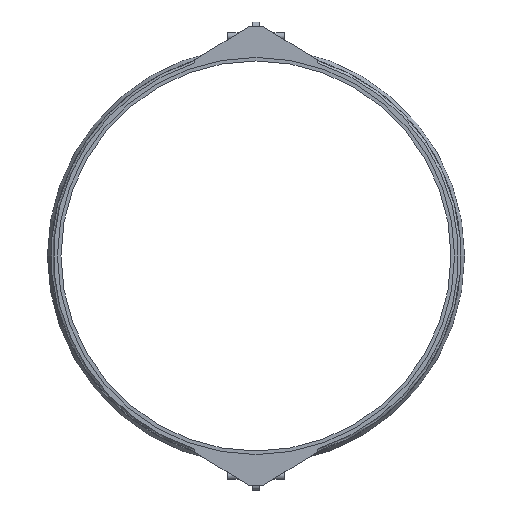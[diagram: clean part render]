
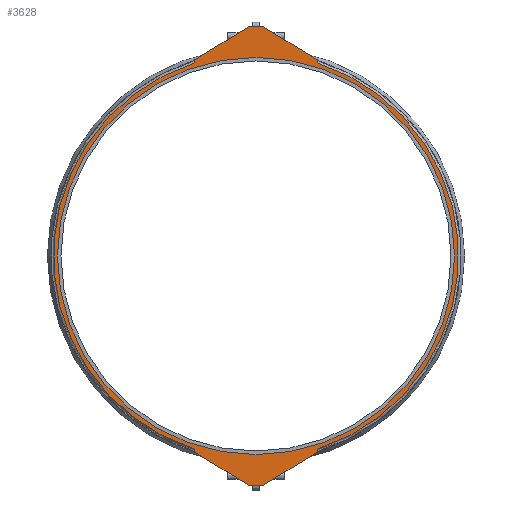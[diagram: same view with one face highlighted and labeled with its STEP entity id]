
A CAD part, left-side view. The second image highlights one B-rep face of the part: STEP entity #3628.
In plain terms, the highlighted planar face has unit normal (-1, 0, 0).
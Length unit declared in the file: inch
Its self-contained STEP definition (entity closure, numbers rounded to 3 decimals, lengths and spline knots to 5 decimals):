
#102=FACE_BOUND('',#650,.T.);
#238=PLANE('',#3957);
#429=FACE_OUTER_BOUND('',#649,.T.);
#649=EDGE_LOOP('',(#3180,#3181,#3182,#3183,#3184,#3185,#3186,#3187,#3188,
#3189,#3190,#3191,#3192,#3193,#3194,#3195,#3196,#3197,#3198,#3199));
#650=EDGE_LOOP('',(#3200,#3201));
#771=LINE('',#5283,#1114);
#777=LINE('',#5299,#1120);
#780=LINE('',#5309,#1123);
#785=LINE('',#5320,#1128);
#787=LINE('',#5345,#1130);
#939=LINE('',#5892,#1282);
#950=LINE('',#5923,#1293);
#952=LINE('',#5930,#1295);
#956=LINE('',#5939,#1299);
#959=LINE('',#5947,#1302);
#1114=VECTOR('',#4259,0.3937);
#1120=VECTOR('',#4273,0.3937);
#1123=VECTOR('',#4284,0.3937);
#1128=VECTOR('',#4295,0.3937);
#1130=VECTOR('',#4303,0.3937);
#1282=VECTOR('',#4709,0.3937);
#1293=VECTOR('',#4736,0.3937);
#1295=VECTOR('',#4744,0.3937);
#1299=VECTOR('',#4754,0.3937);
#1302=VECTOR('',#4763,0.3937);
#1361=CIRCLE('',#3734,0.063);
#1363=CIRCLE('',#3738,0.125);
#1364=CIRCLE('',#3741,0.125);
#1365=CIRCLE('',#3744,0.063);
#1368=CIRCLE('',#3750,21.425);
#1369=CIRCLE('',#3752,21.425);
#1415=CIRCLE('',#3882,0.063);
#1416=CIRCLE('',#3885,0.125);
#1417=CIRCLE('',#3888,0.125);
#1418=CIRCLE('',#3891,0.063);
#1453=CIRCLE('',#3955,21.);
#1454=CIRCLE('',#3956,21.);
#1554=VERTEX_POINT('',#5263);
#1555=VERTEX_POINT('',#5282);
#1558=VERTEX_POINT('',#5289);
#1559=VERTEX_POINT('',#5291);
#1561=VERTEX_POINT('',#5297);
#1563=VERTEX_POINT('',#5303);
#1564=VERTEX_POINT('',#5307);
#1566=VERTEX_POINT('',#5314);
#1567=VERTEX_POINT('',#5318);
#1569=VERTEX_POINT('',#5325);
#1572=VERTEX_POINT('',#5353);
#1573=VERTEX_POINT('',#5374);
#1708=VERTEX_POINT('',#5891);
#1720=VERTEX_POINT('',#5921);
#1721=VERTEX_POINT('',#5925);
#1722=VERTEX_POINT('',#5929);
#1723=VERTEX_POINT('',#5933);
#1724=VERTEX_POINT('',#5938);
#1725=VERTEX_POINT('',#5942);
#1726=VERTEX_POINT('',#5946);
#1769=VERTEX_POINT('',#6091);
#1770=VERTEX_POINT('',#6093);
#1915=EDGE_CURVE('',#1554,#1555,#771,.T.);
#1919=EDGE_CURVE('',#1558,#1559,#1361,.T.);
#1923=EDGE_CURVE('',#1561,#1558,#777,.T.);
#1926=EDGE_CURVE('',#1563,#1561,#1363,.T.);
#1928=EDGE_CURVE('',#1564,#1563,#780,.T.);
#1932=EDGE_CURVE('',#1566,#1564,#1364,.T.);
#1934=EDGE_CURVE('',#1567,#1566,#785,.T.);
#1935=EDGE_CURVE('',#1555,#1567,#1365,.T.);
#1938=EDGE_CURVE('',#1559,#1569,#787,.T.);
#1943=EDGE_CURVE('',#1554,#1572,#1368,.T.);
#1944=EDGE_CURVE('',#1573,#1569,#1369,.T.);
#2147=EDGE_CURVE('',#1708,#1573,#939,.T.);
#2163=EDGE_CURVE('',#1572,#1720,#950,.T.);
#2164=EDGE_CURVE('',#1721,#1708,#1415,.T.);
#2166=EDGE_CURVE('',#1722,#1721,#952,.T.);
#2168=EDGE_CURVE('',#1723,#1722,#1416,.T.);
#2171=EDGE_CURVE('',#1724,#1723,#956,.T.);
#2173=EDGE_CURVE('',#1725,#1724,#1417,.T.);
#2175=EDGE_CURVE('',#1726,#1725,#959,.T.);
#2177=EDGE_CURVE('',#1720,#1726,#1418,.T.);
#2246=EDGE_CURVE('',#1770,#1769,#1453,.T.);
#2247=EDGE_CURVE('',#1769,#1770,#1454,.T.);
#3180=ORIENTED_EDGE('',*,*,#1944,.T.);
#3181=ORIENTED_EDGE('',*,*,#1938,.F.);
#3182=ORIENTED_EDGE('',*,*,#1919,.F.);
#3183=ORIENTED_EDGE('',*,*,#1923,.F.);
#3184=ORIENTED_EDGE('',*,*,#1926,.F.);
#3185=ORIENTED_EDGE('',*,*,#1928,.F.);
#3186=ORIENTED_EDGE('',*,*,#1932,.F.);
#3187=ORIENTED_EDGE('',*,*,#1934,.F.);
#3188=ORIENTED_EDGE('',*,*,#1935,.F.);
#3189=ORIENTED_EDGE('',*,*,#1915,.F.);
#3190=ORIENTED_EDGE('',*,*,#1943,.T.);
#3191=ORIENTED_EDGE('',*,*,#2163,.T.);
#3192=ORIENTED_EDGE('',*,*,#2177,.T.);
#3193=ORIENTED_EDGE('',*,*,#2175,.T.);
#3194=ORIENTED_EDGE('',*,*,#2173,.T.);
#3195=ORIENTED_EDGE('',*,*,#2171,.T.);
#3196=ORIENTED_EDGE('',*,*,#2168,.T.);
#3197=ORIENTED_EDGE('',*,*,#2166,.T.);
#3198=ORIENTED_EDGE('',*,*,#2164,.T.);
#3199=ORIENTED_EDGE('',*,*,#2147,.T.);
#3200=ORIENTED_EDGE('',*,*,#2246,.T.);
#3201=ORIENTED_EDGE('',*,*,#2247,.T.);
#3628=ADVANCED_FACE('',(#429,#102),#238,.T.);
#3734=AXIS2_PLACEMENT_3D('',#5292,#4266,#4267);
#3738=AXIS2_PLACEMENT_3D('',#5305,#4279,#4280);
#3741=AXIS2_PLACEMENT_3D('',#5316,#4290,#4291);
#3744=AXIS2_PLACEMENT_3D('',#5322,#4298,#4299);
#3750=AXIS2_PLACEMENT_3D('',#5372,#4313,#4314);
#3752=AXIS2_PLACEMENT_3D('',#5375,#4317,#4318);
#3882=AXIS2_PLACEMENT_3D('',#5926,#4739,#4740);
#3885=AXIS2_PLACEMENT_3D('',#5934,#4748,#4749);
#3888=AXIS2_PLACEMENT_3D('',#5943,#4758,#4759);
#3891=AXIS2_PLACEMENT_3D('',#5950,#4767,#4768);
#3955=AXIS2_PLACEMENT_3D('',#6094,#4928,#4929);
#3956=AXIS2_PLACEMENT_3D('',#6095,#4930,#4931);
#3957=AXIS2_PLACEMENT_3D('',#6096,#4932,#4933);
#4259=DIRECTION('',(0.,0.,-1.));
#4266=DIRECTION('center_axis',(1.,0.,0.));
#4267=DIRECTION('ref_axis',(0.,-1.,0.));
#4273=DIRECTION('',(0.,0.85,0.527));
#4279=DIRECTION('center_axis',(1.,0.,0.));
#4280=DIRECTION('ref_axis',(0.,-0.527,0.85));
#4284=DIRECTION('',(0.,1.,0.));
#4290=DIRECTION('center_axis',(1.,0.,0.));
#4291=DIRECTION('ref_axis',(0.,0.,1.));
#4295=DIRECTION('',(0.,0.85,-0.527));
#4298=DIRECTION('center_axis',(1.,0.,0.));
#4299=DIRECTION('ref_axis',(0.,0.527,0.85));
#4303=DIRECTION('',(0.,0.,1.));
#4313=DIRECTION('center_axis',(-1.,0.,0.));
#4314=DIRECTION('ref_axis',(0.,0.,1.));
#4317=DIRECTION('center_axis',(-1.,0.,0.));
#4318=DIRECTION('ref_axis',(0.,0.,1.));
#4709=DIRECTION('',(0.,0.,-1.));
#4736=DIRECTION('',(0.,0.,1.));
#4739=DIRECTION('center_axis',(-1.,0.,0.));
#4740=DIRECTION('ref_axis',(0.,-1.,0.));
#4744=DIRECTION('',(0.,0.85,-0.527));
#4748=DIRECTION('center_axis',(-1.,0.,0.));
#4749=DIRECTION('ref_axis',(0.,-0.527,-0.85));
#4754=DIRECTION('',(0.,1.,0.));
#4758=DIRECTION('center_axis',(-1.,0.,0.));
#4759=DIRECTION('ref_axis',(0.,0.,-1.));
#4763=DIRECTION('',(0.,0.85,0.527));
#4767=DIRECTION('center_axis',(-1.,0.,0.));
#4768=DIRECTION('ref_axis',(0.,0.527,-0.85));
#4928=DIRECTION('center_axis',(1.,0.,0.));
#4929=DIRECTION('ref_axis',(0.,0.,-1.));
#4930=DIRECTION('center_axis',(1.,0.,0.));
#4931=DIRECTION('ref_axis',(0.,0.,-1.));
#4932=DIRECTION('center_axis',(-1.,0.,0.));
#4933=DIRECTION('ref_axis',(0.,0.,1.));
#5263=CARTESIAN_POINT('',(-3.25,-6.5,-20.41521));
#5282=CARTESIAN_POINT('',(-3.25,-6.5,-20.68014));
#5283=CARTESIAN_POINT('',(-3.25,-6.5,-20.41521));
#5289=CARTESIAN_POINT('',(-3.25,6.4702,-20.73368));
#5291=CARTESIAN_POINT('',(-3.25,6.5,-20.68014));
#5292=CARTESIAN_POINT('Origin',(-3.25,6.437,-20.68014));
#5297=CARTESIAN_POINT('',(-3.25,0.83027,-24.23123));
#5299=CARTESIAN_POINT('',(-3.25,0.83027,-24.23123));
#5303=CARTESIAN_POINT('',(-3.25,0.76439,-24.25));
#5305=CARTESIAN_POINT('Origin',(-3.25,0.76439,-24.125));
#5307=CARTESIAN_POINT('',(-3.25,-0.76439,-24.25));
#5309=CARTESIAN_POINT('',(-3.25,0.,-24.25));
#5314=CARTESIAN_POINT('',(-3.25,-0.83027,-24.23123));
#5316=CARTESIAN_POINT('Origin',(-3.25,-0.76439,-24.125));
#5318=CARTESIAN_POINT('',(-3.25,-6.4702,-20.73368));
#5320=CARTESIAN_POINT('',(-3.25,-6.4702,-20.73368));
#5322=CARTESIAN_POINT('Origin',(-3.25,-6.437,-20.68014));
#5325=CARTESIAN_POINT('',(-3.25,6.5,-20.41521));
#5345=CARTESIAN_POINT('',(-3.25,6.5,-20.68014));
#5353=CARTESIAN_POINT('',(-3.25,-6.5,20.41521));
#5372=CARTESIAN_POINT('Origin',(-3.25,0.,0.));
#5374=CARTESIAN_POINT('',(-3.25,6.5,20.41521));
#5375=CARTESIAN_POINT('Origin',(-3.25,0.,0.));
#5891=CARTESIAN_POINT('',(-3.25,6.5,20.68014));
#5892=CARTESIAN_POINT('',(-3.25,6.5,20.68014));
#5921=CARTESIAN_POINT('',(-3.25,-6.5,20.68014));
#5923=CARTESIAN_POINT('',(-3.25,-6.5,20.41521));
#5925=CARTESIAN_POINT('',(-3.25,6.4702,20.73368));
#5926=CARTESIAN_POINT('Origin',(-3.25,6.437,20.68014));
#5929=CARTESIAN_POINT('',(-3.25,0.83027,24.23123));
#5930=CARTESIAN_POINT('',(-3.25,0.83027,24.23123));
#5933=CARTESIAN_POINT('',(-3.25,0.76439,24.25));
#5934=CARTESIAN_POINT('Origin',(-3.25,0.76439,24.125));
#5938=CARTESIAN_POINT('',(-3.25,-0.76439,24.25));
#5939=CARTESIAN_POINT('',(-3.25,0.,24.25));
#5942=CARTESIAN_POINT('',(-3.25,-0.83027,24.23123));
#5943=CARTESIAN_POINT('Origin',(-3.25,-0.76439,24.125));
#5946=CARTESIAN_POINT('',(-3.25,-6.4702,20.73368));
#5947=CARTESIAN_POINT('',(-3.25,-6.4702,20.73368));
#5950=CARTESIAN_POINT('Origin',(-3.25,-6.437,20.68014));
#6091=CARTESIAN_POINT('',(-3.25,-21.,0.));
#6093=CARTESIAN_POINT('',(-3.25,21.,0.));
#6094=CARTESIAN_POINT('Origin',(-3.25,0.,0.));
#6095=CARTESIAN_POINT('Origin',(-3.25,0.,0.));
#6096=CARTESIAN_POINT('Origin',(-3.25,21.675,0.));
